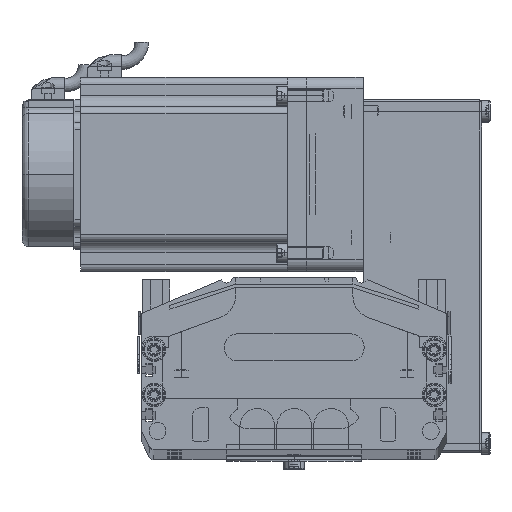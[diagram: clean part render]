
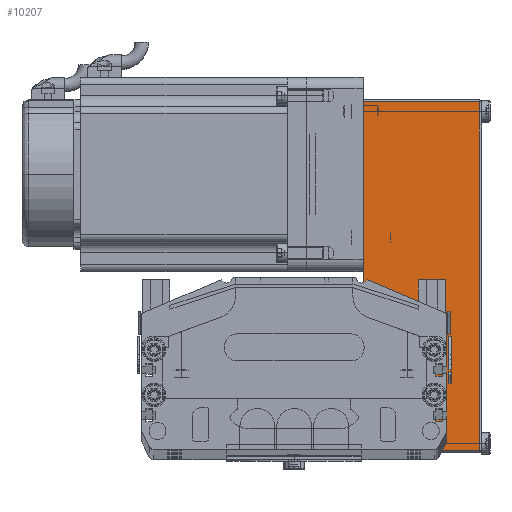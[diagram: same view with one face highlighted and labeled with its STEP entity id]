
A CAD part, top view. The second image highlights one B-rep face of the part: STEP entity #10207.
In plain terms, the highlighted planar face has unit normal (0, 0, 1) as drawn and (0, -1, 0) by its records, which use the part's own axes.
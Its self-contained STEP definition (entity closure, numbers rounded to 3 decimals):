
#10105 = EDGE_CURVE ( 'NONE', #10367, #10389, #13441, .T. ) ;
#10111 = ORIENTED_EDGE ( 'NONE', *, *, #10229, .T. ) ;
#10128 = EDGE_LOOP ( 'NONE', ( #10111, #10206, #10186, #10129 ) ) ;
#10129 = ORIENTED_EDGE ( 'NONE', *, *, #10105, .T. ) ;
#10186 = ORIENTED_EDGE ( 'NONE', *, *, #10192, .T. ) ;
#10192 = EDGE_CURVE ( 'NONE', #10199, #10367, #50898, .T. ) ;
#10193 = EDGE_CURVE ( 'NONE', #10209, #10199, #50893, .T. ) ;
#10199 = VERTEX_POINT ( 'NONE', #50993 ) ;
#10206 = ORIENTED_EDGE ( 'NONE', *, *, #10193, .T. ) ;
#10207 = ADVANCED_FACE ( 'NONE', ( #50981 ), #50978, .F. ) ;
#10209 = VERTEX_POINT ( 'NONE', #50848 ) ;
#10229 = EDGE_CURVE ( 'NONE', #10389, #10209, #49074, .T. ) ;
#10367 = VERTEX_POINT ( 'NONE', #49160 ) ;
#10389 = VERTEX_POINT ( 'NONE', #49442 ) ;
#13426 = DIRECTION ( 'NONE',  ( 0., 0., -1. ) ) ;
#13427 = VECTOR ( 'NONE', #13426, 1000. ) ;
#13440 = CARTESIAN_POINT ( 'NONE',  ( -123.2, -40., 52.5 ) ) ;
#13441 = LINE ( 'NONE', #13440, #13427 ) ;
#49073 = CARTESIAN_POINT ( 'NONE',  ( 32., -40., 0. ) ) ;
#49074 = LINE ( 'NONE', #49073, #49146 ) ;
#49145 = DIRECTION ( 'NONE',  ( 1., 0., 0. ) ) ;
#49146 = VECTOR ( 'NONE', #49145, 1000. ) ;
#49160 = CARTESIAN_POINT ( 'NONE',  ( -123.2, -40., 51.5 ) ) ;
#49442 = CARTESIAN_POINT ( 'NONE',  ( -123.2, -40., 0. ) ) ;
#50848 = CARTESIAN_POINT ( 'NONE',  ( 31., -40., 0. ) ) ;
#50849 = DIRECTION ( 'NONE',  ( -1., 0., 0. ) ) ;
#50850 = DIRECTION ( 'NONE',  ( 0., 1., 0. ) ) ;
#50854 = CARTESIAN_POINT ( 'NONE',  ( 32., -40., 52.5 ) ) ;
#50889 = DIRECTION ( 'NONE',  ( 0., 0., 1. ) ) ;
#50890 = VECTOR ( 'NONE', #50889, 1000. ) ;
#50891 = CARTESIAN_POINT ( 'NONE',  ( 31., -40., 52.5 ) ) ;
#50893 = LINE ( 'NONE', #50891, #50890 ) ;
#50894 = DIRECTION ( 'NONE',  ( -1., 0., 0. ) ) ;
#50895 = VECTOR ( 'NONE', #50894, 1000. ) ;
#50897 = CARTESIAN_POINT ( 'NONE',  ( 32., -40., 51.5 ) ) ;
#50898 = LINE ( 'NONE', #50897, #50895 ) ;
#50978 = PLANE ( 'NONE',  #50983 ) ;
#50981 = FACE_OUTER_BOUND ( 'NONE', #10128, .T. ) ;
#50983 = AXIS2_PLACEMENT_3D ( 'NONE', #50854, #50850, #50849 ) ;
#50993 = CARTESIAN_POINT ( 'NONE',  ( 31., -40., 51.5 ) ) ;
